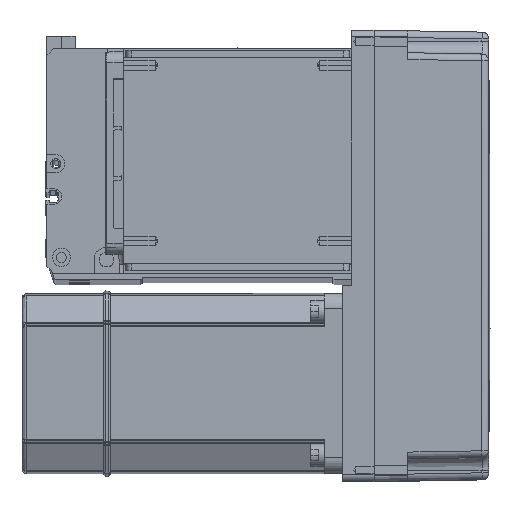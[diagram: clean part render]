
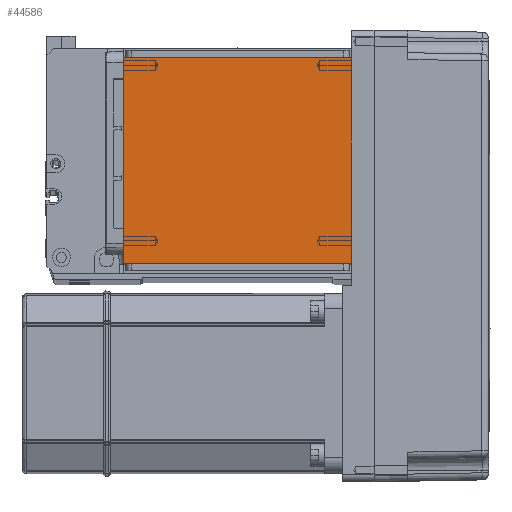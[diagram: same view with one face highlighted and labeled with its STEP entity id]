
A CAD part, top view. The second image highlights one B-rep face of the part: STEP entity #44586.
In plain terms, the highlighted planar face has unit normal (0, 0, 1).
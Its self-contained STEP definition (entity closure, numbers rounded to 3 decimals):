
#519 = LINE ( 'NONE', #16309, #11737 ) ;
#4161 = LINE ( 'NONE', #22408, #55331 ) ;
#7461 = EDGE_CURVE ( 'NONE', #13204, #28199, #7493, .T. ) ;
#7493 = LINE ( 'NONE', #30030, #57266 ) ;
#11737 = VECTOR ( 'NONE', #34991, 1000. ) ;
#11883 = DIRECTION ( 'NONE',  ( 0., 0., 1. ) ) ;
#13204 = VERTEX_POINT ( 'NONE', #47031 ) ;
#14331 = CARTESIAN_POINT ( 'NONE',  ( 50.5, 111.5, 115. ) ) ;
#15702 = AXIS2_PLACEMENT_3D ( 'NONE', #39055, #11883, #20584 ) ;
#16309 = CARTESIAN_POINT ( 'NONE',  ( -70.004, 111.5, 115. ) ) ;
#19452 = VERTEX_POINT ( 'NONE', #54458 ) ;
#20584 = DIRECTION ( 'NONE',  ( 1., 0., 0. ) ) ;
#22408 = CARTESIAN_POINT ( 'NONE',  ( -50.5, 122., 115. ) ) ;
#24693 = VERTEX_POINT ( 'NONE', #37712 ) ;
#25571 = PLANE ( 'NONE',  #15702 ) ;
#26792 = ORIENTED_EDGE ( 'NONE', *, *, #35618, .T. ) ;
#27317 = FACE_OUTER_BOUND ( 'NONE', #33344, .T. ) ;
#28199 = VERTEX_POINT ( 'NONE', #14331 ) ;
#30030 = CARTESIAN_POINT ( 'NONE',  ( 50.5, 122., 115. ) ) ;
#31260 = LINE ( 'NONE', #54312, #46885 ) ;
#33212 = EDGE_CURVE ( 'NONE', #13204, #24693, #31260, .T. ) ;
#33344 = EDGE_LOOP ( 'NONE', ( #52466, #26792, #55525, #46798 ) ) ;
#34991 = DIRECTION ( 'NONE',  ( 1., 0., 0. ) ) ;
#35618 = EDGE_CURVE ( 'NONE', #19452, #24693, #4161, .T. ) ;
#37031 = EDGE_CURVE ( 'NONE', #19452, #28199, #519, .T. ) ;
#37712 = CARTESIAN_POINT ( 'NONE',  ( -50.5, 20., 115. ) ) ;
#39055 = CARTESIAN_POINT ( 'NONE',  ( 0., 0., 115. ) ) ;
#44586 = ADVANCED_FACE ( 'NONE', ( #27317 ), #25571, .T. ) ;
#44944 = DIRECTION ( 'NONE',  ( -1., 0., 0. ) ) ;
#46798 = ORIENTED_EDGE ( 'NONE', *, *, #7461, .T. ) ;
#46885 = VECTOR ( 'NONE', #44944, 1000. ) ;
#47031 = CARTESIAN_POINT ( 'NONE',  ( 50.5, 20., 115. ) ) ;
#52466 = ORIENTED_EDGE ( 'NONE', *, *, #37031, .F. ) ;
#53305 = DIRECTION ( 'NONE',  ( 0., 1., 0. ) ) ;
#53996 = DIRECTION ( 'NONE',  ( 0., -1., 0. ) ) ;
#54312 = CARTESIAN_POINT ( 'NONE',  ( -70.004, 20., 115. ) ) ;
#54458 = CARTESIAN_POINT ( 'NONE',  ( -50.5, 111.5, 115. ) ) ;
#55331 = VECTOR ( 'NONE', #53996, 1000. ) ;
#55525 = ORIENTED_EDGE ( 'NONE', *, *, #33212, .F. ) ;
#57266 = VECTOR ( 'NONE', #53305, 1000. ) ;
